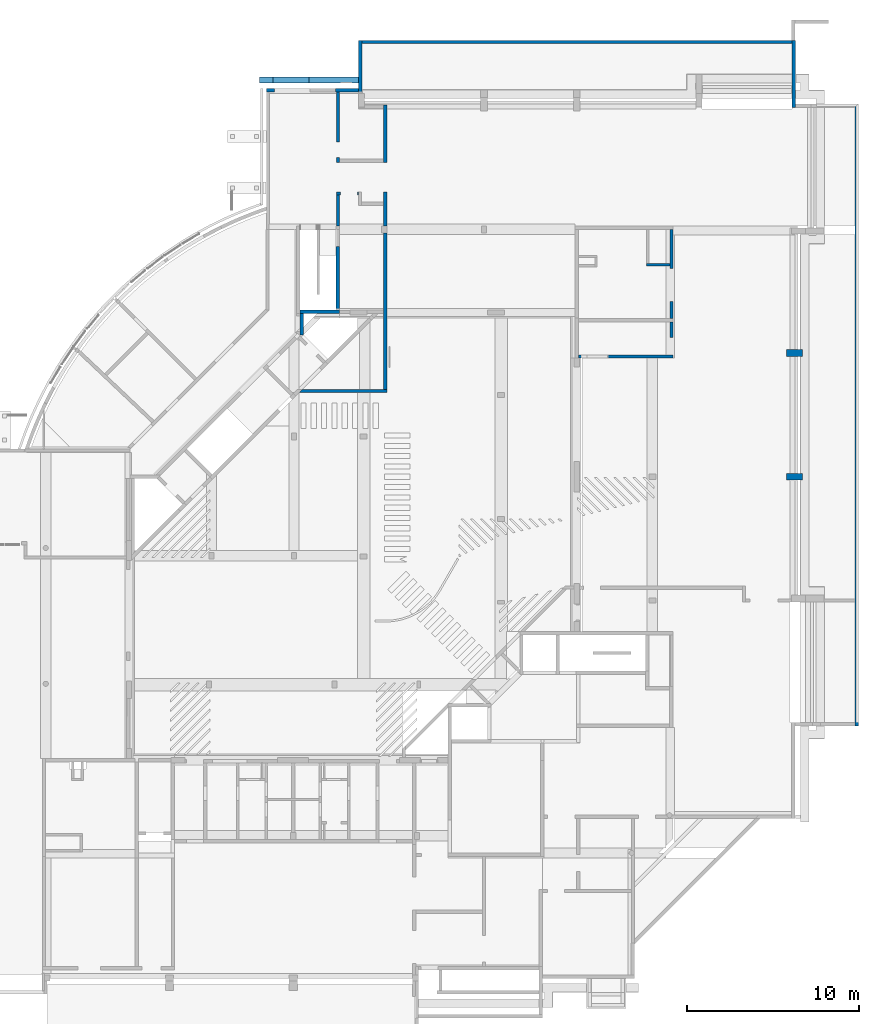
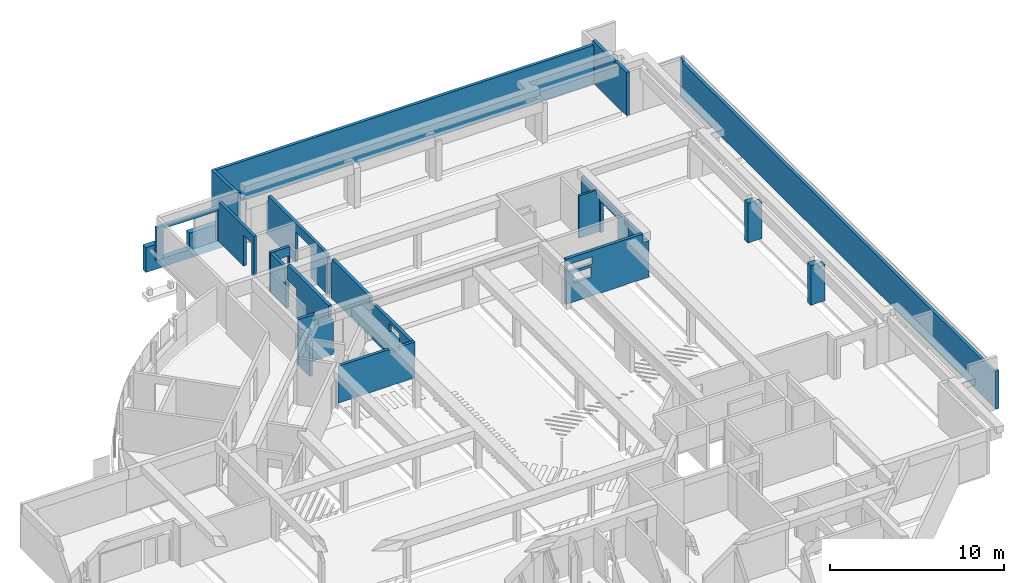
# One storey, part 21 of 22: 21 walls.
"""IFC4X3_ADD2 building model written with IfcOpenShell, lengths in millimetres."""

from ifc_helpers import new_model, si_unit, direction, frame, origin_with_axes, place, context, subcontext, project, spatial, polygons, element, save


model = new_model("IFC4X3_ADD2")

# Units and contexts
model_context = context("Model", 3, precision=1e-05, world=origin_with_axes(), true_north=direction((0.0, 1.0)))
body_context = subcontext(model_context, "Body", "Model", "MODEL_VIEW")
ifc_project = project(units=[si_unit("LENGTHUNIT", "METRE", prefix="MILLI"), si_unit("AREAUNIT", "SQUARE_METRE"), si_unit("VOLUMEUNIT", "CUBIC_METRE"), si_unit("PLANEANGLEUNIT", "RADIAN"), si_unit("TIMEUNIT", "SECOND"), si_unit("MASSUNIT", "GRAM")], contexts=[model_context])

# Site, building, storey
site_placement = place(None, origin_with_axes())
site = spatial("IfcSite", under=ifc_project, at=site_placement, Name="Site", CompositionType="ELEMENT")
building_placement = place(site_placement, origin_with_axes())
building = spatial("IfcBuilding", under=site, at=building_placement, Name="IFC Building Story")
storey_placement = place(building_placement, frame((0.0, 0.0, -3240.0), z_axis=(0.0, 0.0, 1.0), x_axis=(1.0, 0.0, 0.0)))
storey = spatial("IfcBuildingStorey", under=building, at=storey_placement, Name="K10", Elevation=-3240.0)

# Walls
wall_1_placement = place(storey_placement, frame((0.0, 0.0, 3240.0), z_axis=(0.0, 0.0, 1.0), x_axis=(1.0, 0.0, 0.0)))
element("IfcWall", 1, at=wall_1_placement, inside=storey, Name="Basic Wall:BB_XX_Wand uit beton, 200 mm", ObjectType="Basic Wall:BB_XX_Wand uit beton, 200 mm", PredefinedType="SOLIDWALL", context=body_context, shape_type="Tessellation", body=[
    polygons([(3600.04020634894, 50800.02750775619, -3240.0), (3600.04020634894, 50600.02750775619, -3240.0), (3600.040206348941, 14795.0, -3240.0), (3600.04020634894, 14595.0, -3240.0), (3600.04020634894, 14595.0, -550.0), (3600.040206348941, 14795.0, -550.0), (3600.040206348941, 14795.0, -747.87243127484), (3600.040206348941, 20904.9999999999, -747.87243127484), (3600.040206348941, 21804.9999999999, -747.87243127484), (3600.040206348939, 50600.02750775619, -747.87243127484), (3600.040206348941, 50600.02750775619, -550.0), (3600.04020634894, 50800.0275077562, -550.0), (3800.04020634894, 14595.0, -3240.0), (3800.04020634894, 50800.02750775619, -3240.0), (3800.04020634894, 50800.02750775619, -550.0), (3800.04020634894, 50600.02750775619, -550.0), (3800.04020634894, 50600.02750775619, -750.0114380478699), (3800.04020634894, 14795.0, -750.0114380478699), (3800.04020634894, 14795.0, -550.0), (3800.04020634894, 14595.0, -550.0), (3800.04020634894, 14595.0, -1000.0), (3700.040206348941, 14595.0, -550.0)], [[[7, 3, 4]], [[7, 4, 5]], [[5, 6, 7]], [[9, 10, 2]], [[9, 2, 3]], [[3, 8, 9]], [[3, 7, 8]], [[10, 11, 12]], [[12, 1, 2]], [[12, 2, 10]], [[18, 19, 20]], [[21, 13, 14]], [[21, 14, 17]], [[18, 20, 21]], [[21, 17, 18]], [[14, 15, 17]], [[15, 16, 17]], [[2, 1, 14]], [[14, 13, 3]], [[14, 3, 2]], [[13, 4, 3]], [[22, 20, 19]], [[22, 19, 6]], [[6, 5, 22]], [[1, 12, 15, 14]], [[22, 5, 21]], [[21, 20, 22]], [[5, 4, 13]], [[5, 13, 21]], [[8, 7, 18]], [[18, 9, 8]], [[9, 18, 17]], [[17, 10, 9]], [[18, 7, 6, 19]], [[10, 17, 16, 11]], [[15, 12, 11, 16]]]),
])
wall_2_placement = place(storey_placement, frame((0.0, 0.0, 3240.0), z_axis=(0.0, 0.0, 1.0), x_axis=(1.0, 0.0, 0.0)))
element("IfcWall", 2, at=wall_2_placement, inside=storey, Name="Basic Wall:BB_XX_Wand uit beton, 200 mm", ObjectType="Basic Wall:BB_XX_Wand uit beton, 200 mm", PredefinedType="SOLIDWALL", context=body_context, shape_type="Tessellation", body=[
    polygons([(-26600.0, 43500.0, -1120.0), (-26600.0, 42499.99999999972, -1120.0), (-26600.0, 42499.99999999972, -3240.0), (-26600.0, 38799.99593411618, -3240.0), (-26600.0, 38799.99593411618, -80.0), (-26600.0, 43500.0, -80.0), (-26400.0, 43500.0, -1120.0), (-26400.0, 43500.0, -80.0), (-26400.0, 38799.99593411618, -80.0), (-26400.0, 38799.99593411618, -200.0), (-26400.0, 38799.99593411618, -3240.0), (-26400.0, 42499.99999999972, -3240.0), (-26400.0, 42499.99999999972, -1120.0)], [[[2, 3, 4]], [[2, 4, 5]], [[5, 6, 2]], [[6, 1, 2]], [[13, 7, 8]], [[13, 8, 10]], [[10, 11, 12]], [[10, 12, 13]], [[8, 9, 10]], [[10, 9, 5]], [[5, 4, 11]], [[5, 11, 10]], [[4, 3, 12, 11]], [[6, 5, 9, 8]], [[1, 6, 8, 7]], [[2, 1, 7, 13]], [[3, 2, 13, 12]]]),
])
wall_3_placement = place(storey_placement, frame((0.0, 0.0, 3240.0), z_axis=(0.0, 0.0, 1.0), x_axis=(1.0, 0.0, 0.0)))
element("IfcWall", 3, at=wall_3_placement, inside=storey, Name="Basic Wall:BB_XX_Wand uit beton, 200 mm", ObjectType="Basic Wall:BB_XX_Wand uit beton, 200 mm", PredefinedType="SOLIDWALL", context=body_context, shape_type="Tessellation", body=[
    polygons([(-26400.0, 38799.9959341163, -3440.0), (-28700.0000000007, 38799.9959341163, -3440.0), (-28700.0000000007, 38799.9959341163, -200.0), (-27495.84100984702, 38799.9959341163, -200.0), (-27495.84100984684, 38799.99593411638, -950.0), (-26600.00000000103, 38799.9959341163, -950.0), (-26400.0000000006, 38799.9959341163, -950.0), (-26400.00000000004, 38799.9959341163, -3240.0), (-28700.0000000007, 38599.9959341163, -3440.0), (-26400.0, 38599.9959341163, -3440.0), (-26400.0000000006, 38599.9959341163, -950.0), (-27695.84100984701, 38599.9959341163, -950.0), (-27695.84100984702, 38599.9959341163, -200.0), (-28700.0000000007, 38599.9959341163, -200.0), (-28700.00000000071, 38599.9959341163, -920.0)], [[[8, 1, 6]], [[6, 7, 8]], [[1, 5, 6]], [[1, 2, 3]], [[1, 3, 5]], [[3, 4, 5]], [[12, 13, 14]], [[12, 14, 15]], [[12, 15, 9]], [[9, 10, 11]], [[9, 11, 12]], [[2, 1, 10, 9]], [[3, 14, 13, 4]], [[15, 14, 3]], [[3, 2, 9]], [[3, 9, 15]], [[6, 5, 12]], [[6, 12, 11]], [[11, 7, 6]], [[12, 5, 4, 13]], [[8, 7, 11]], [[8, 11, 10]], [[10, 1, 8]]]),
])
wall_4_placement = place(storey_placement, frame((0.0, 0.0, 3240.0), z_axis=(0.0, 0.0, 1.0), x_axis=(1.0, 0.0, 0.0)))
element("IfcWall", 4, at=wall_4_placement, inside=storey, Name="Basic Wall:BB_XX_Wand uit beton, 200 mm", ObjectType="Basic Wall:BB_XX_Wand uit beton, 200 mm", PredefinedType="SOLIDWALL", context=body_context, shape_type="Tessellation", body=[
    polygons([(-12500.0040658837, 36000.0, -3240.0), (-6999.999999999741, 36000.0, -3240.0), (-6999.999999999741, 36000.0, -680.0), (-7400.000000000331, 36000.00000000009, -680.0), (-7400.000000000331, 36000.0, -80.0), (-12500.0040658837, 36000.0, -80.0), (-12350.00000000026, 36000.0, -1010.0), (-12350.00000000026, 36000.0, -510.0), (-10750.00000000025, 36000.0, -509.99999999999), (-10750.00000000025, 36000.0, -1010.0), (-10800.0040658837, 36000.0, -1910.0), (-12000.0040658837, 36000.0, -1910.0), (-12000.0040658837, 36000.0, -1210.0), (-10800.0040658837, 36000.0, -1210.0), (-6999.999999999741, 36200.0, -3240.0), (-12500.0040658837, 36200.0, -3240.0), (-12500.0040658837, 36200.0, -80.0), (-7400.000000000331, 36200.0, -80.0), (-7400.000000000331, 36200.0, -680.0), (-6999.999999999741, 36200.0, -680.0), (-12350.00000000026, 36200.0, -510.0), (-12350.00000000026, 36200.0, -1010.0), (-10750.00000000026, 36200.0, -1010.0), (-10750.00000000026, 36200.0, -509.99999999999), (-12000.0040658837, 36200.0, -1910.0), (-10800.0040658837, 36200.0, -1910.0), (-10800.0040658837, 36200.0, -1210.0), (-12000.0040658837, 36200.0, -1210.0)], [[[7, 6, 1]], [[13, 14, 10]], [[13, 10, 7]], [[7, 12, 13]], [[12, 7, 1]], [[1, 11, 12]], [[10, 14, 4]], [[4, 9, 10]], [[4, 5, 6]], [[4, 6, 9]], [[6, 8, 9]], [[6, 7, 8]], [[11, 1, 2]], [[11, 2, 4]], [[4, 14, 11]], [[2, 3, 4]], [[24, 21, 17]], [[19, 20, 23]], [[24, 17, 18]], [[24, 18, 19]], [[19, 23, 24]], [[28, 25, 16]], [[28, 16, 22]], [[22, 23, 27]], [[22, 27, 28]], [[23, 26, 27]], [[26, 23, 20]], [[20, 15, 16]], [[20, 16, 26]], [[16, 25, 26]], [[16, 17, 22]], [[17, 21, 22]], [[19, 4, 3, 20]], [[4, 19, 18, 5]], [[2, 1, 16, 15]], [[2, 15, 20, 3]], [[17, 6, 5, 18]], [[1, 6, 17, 16]], [[8, 7, 22, 21]], [[9, 8, 21, 24]], [[10, 9, 24, 23]], [[7, 10, 23, 22]], [[12, 11, 26, 25]], [[13, 12, 25, 28]], [[14, 13, 28, 27]], [[11, 14, 27, 26]]]),
])
wall_5_placement = place(storey_placement, frame((0.0, 0.0, 3240.0), z_axis=(0.0, 0.0, 1.0), x_axis=(1.0, 0.0, 0.0)))
element("IfcWall", 5, at=wall_5_placement, inside=storey, Name="Basic Wall:BB_XX_Wand uit metselwerk, 190 mm", ObjectType="Basic Wall:BB_XX_Wand uit metselwerk, 190 mm", PredefinedType="SOLIDWALL", context=body_context, shape_type="Tessellation", body=[
    polygons([(-28510.0, 37359.9959341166, -3440.0), (-28510.0, 38599.9959341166, -3440.0), (-28510.0, 38599.9959341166, -919.3956675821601), (-28510.0, 37785.83694396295, -919.3956675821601), (-28510.0, 37785.83694396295, -950.0), (-28510.0, 37361.57287525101, -950.0), (-28510.0, 37361.57287525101, -919.3956675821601), (-28510.0, 37359.9959341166, -919.3956675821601), (-28700.0, 38599.9959341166, -3440.0), (-28700.0, 38467.28377279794, -3440.0), (-28700.0, 37567.28377279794, -3440.0), (-28700.0, 37359.9959341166, -3440.0), (-28700.0, 37359.9959341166, -950.0), (-28700.0, 37567.28377279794, -950.0), (-28700.0, 37595.83694396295, -950.0), (-28700.0, 37595.83694396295, -919.3956675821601), (-28700.0, 38599.9959341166, -919.3956675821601), (-28700.0, 38599.9959341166, -920.0), (-28511.57694113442, 37359.9959341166, -919.3956675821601), (-28511.57694113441, 37359.9959341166, -950.0)], [[[6, 7, 8]], [[6, 8, 1]], [[1, 5, 6]], [[1, 2, 3]], [[1, 3, 5]], [[3, 4, 5]], [[11, 12, 13]], [[11, 13, 14]], [[15, 16, 17]], [[15, 17, 10]], [[15, 10, 11]], [[11, 14, 15]], [[18, 9, 10]], [[10, 17, 18]], [[10, 9, 2]], [[2, 1, 11]], [[2, 11, 10]], [[1, 12, 11]], [[18, 17, 3]], [[3, 2, 9]], [[3, 9, 18]], [[8, 7, 19]], [[20, 13, 12]], [[20, 12, 1]], [[1, 8, 20]], [[8, 19, 20]], [[15, 5, 4, 16]], [[14, 13, 20]], [[14, 20, 6]], [[6, 5, 15]], [[6, 15, 14]], [[6, 20, 19, 7]], [[3, 17, 16, 4]]]),
])
wall_6_placement = place(storey_placement, frame((0.0, 0.0, 3240.0), z_axis=(0.0, 0.0, 1.0), x_axis=(1.0, 0.0, 0.0)))
element("IfcWall", 6, at=wall_6_placement, inside=storey, Name="Basic Wall:BB_XX_Wand uit beton, 200 mm", ObjectType="Basic Wall:BB_XX_Wand uit beton, 200 mm", PredefinedType="SOLIDWALL", context=body_context, shape_type="Tessellation", body=[
    polygons([(-65.0, 54499.9312295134, -3240.0), (-65.0, 54299.9312295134, -3240.0), (-65.0, 50600.02750775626, -3240.0), (-65.0, 50600.02750775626, -200.0), (-65.0, 51929.99999999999, -200.0), (-65.0, 51929.99999999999, -320.0), (-65.0, 54499.9312295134, -320.0), (-65.0, 54499.9312295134, -605.4227364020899), (135.0, 54499.9312295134, -3240.0), (135.0, 54499.9312295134, -320.0), (135.0, 51929.99999999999, -320.0), (135.0, 51929.99999999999, -200.0), (135.0, 50800.02750775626, -200.0), (135.0, 50600.02750775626, -200.0), (135.0, 50600.02750775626, -3240.0), (135.0, 50800.02750775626, -3240.0)], [[[6, 7, 2]], [[6, 2, 3]], [[3, 4, 6]], [[4, 5, 6]], [[8, 1, 2]], [[2, 7, 8]], [[13, 14, 11]], [[11, 12, 13]], [[11, 14, 16]], [[16, 9, 10]], [[16, 10, 11]], [[14, 15, 16]], [[4, 3, 15, 14]], [[8, 7, 10]], [[10, 9, 1]], [[10, 1, 8]], [[2, 1, 9]], [[16, 15, 3]], [[3, 2, 9]], [[3, 9, 16]], [[13, 12, 5]], [[13, 5, 4]], [[4, 14, 13]], [[6, 5, 12, 11]], [[7, 6, 11, 10]]]),
])
wall_7_placement = place(storey_placement, frame((0.0, 0.0, 3240.0), z_axis=(0.0, 0.0, 1.0), x_axis=(1.0, 0.0, 0.0)))
element("IfcWall", 7, at=wall_7_placement, inside=storey, Name="Basic Wall:BB_XX_Wand uit beton, 200 mm", ObjectType="Basic Wall:BB_XX_Wand uit beton, 200 mm", PredefinedType="SOLIDWALL", context=body_context, shape_type="Tessellation", body=[
    polygons([(-25100.0, 51505.0, -3240.0), (-25100.0, 54299.93122951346, -3240.0), (-25100.0, 54499.93122951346, -3240.0), (-25100.0, 54499.93122951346, -520.0356941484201), (-25100.0, 54299.93122951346, -516.2569465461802), (-25100.0, 51694.99999990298, -467.0400583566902), (-25100.0, 51694.99999990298, -350.0), (-25100.0, 51505.0, -350.0), (-25300.0, 51504.99999999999, -3240.0), (-25300.0, 51504.99999999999, -350.0), (-25300.0, 51694.99999990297, -350.0), (-25300.0, 51694.99999990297, -467.0400583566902), (-25300.0, 54499.93122951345, -520.0356941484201), (-25300.0, 54499.93122951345, -3240.0)], [[[2, 3, 4]], [[2, 4, 5]], [[6, 7, 8]], [[6, 8, 1]], [[1, 2, 5]], [[1, 5, 6]], [[12, 13, 14]], [[12, 14, 9]], [[9, 10, 12]], [[10, 11, 12]], [[2, 1, 9]], [[2, 9, 14]], [[14, 3, 2]], [[1, 8, 10, 9]], [[4, 3, 14, 13]], [[8, 7, 11, 10]], [[11, 7, 6, 12]], [[5, 4, 13]], [[13, 12, 6]], [[13, 6, 5]]]),
])
wall_8_placement = place(storey_placement, frame((0.0, 0.0, 3240.0), z_axis=(0.0, 0.0, 1.0), x_axis=(1.0, 0.0, 0.0)))
element("IfcWall", 8, at=wall_8_placement, inside=storey, Name="Basic Wall:BB_XX_Wand uit beton, 200 mm", ObjectType="Basic Wall:BB_XX_Wand uit beton, 200 mm", PredefinedType="SOLIDWALL", context=body_context, shape_type="Tessellation", body=[
    polygons([(-25100.0, 54299.93122951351, -3240.0), (-65.0, 54299.93122951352, -3240.0), (-65.0, 54299.93122951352, -605.4227364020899), (-100.0, 54299.93122951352, -605.4227364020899), (-100.0, 54299.93122951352, -516.2569465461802), (-25100.0, 54299.93122951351, -516.2569465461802), (-25100.0, 54499.9312295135, -3240.0), (-25100.0, 54499.9312295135, -520.0356941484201), (-100.0, 54499.9312295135, -520.0356941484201), (-100.0, 54499.9312295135, -605.4227364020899), (-65.0, 54499.9312295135, -605.4227364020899), (-65.0, 54499.9312295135, -3240.0)], [[[4, 5, 6]], [[6, 1, 2]], [[6, 2, 4]], [[2, 3, 4]], [[10, 11, 12]], [[10, 12, 7]], [[10, 7, 8]], [[8, 9, 10]], [[2, 1, 7, 12]], [[3, 2, 12, 11]], [[1, 6, 8, 7]], [[4, 3, 11, 10]], [[4, 10, 9, 5]], [[6, 5, 9, 8]]]),
])
wall_9_placement = place(storey_placement, frame((0.0, 0.0, 3240.0), z_axis=(0.0, 0.0, 1.0), x_axis=(1.0, 0.0, 0.0)))
element("IfcWall", 9, at=wall_9_placement, inside=storey, Name="Basic Wall:BB_XX_Wand uit beton, 400 mm", ObjectType="Basic Wall:BB_XX_Wand uit beton, 400 mm", PredefinedType="SOLIDWALL", context=body_context, shape_type="Tessellation", body=[
    polygons([(-382.49999999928, 28900.0, -3240.0), (542.500000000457, 28900.0, -3240.0), (542.500000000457, 28900.0, -714.50349560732), (94.99999999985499, 28900.0, -710.3859075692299), (94.99999999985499, 28900.0, -460.0), (-382.49999999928, 28900.0, -460.0), (-382.49999999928, 29300.00000000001, -3240.0), (-382.49999999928, 29300.00000000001, -460.0), (94.99999999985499, 29300.0, -460.0), (94.99999999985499, 29300.0, -710.3859075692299), (542.500000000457, 29300.0, -714.50349560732), (542.500000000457, 29300.0, -3240.0)], [[[4, 5, 6]], [[4, 6, 1]], [[4, 1, 2]], [[2, 3, 4]], [[10, 11, 12]], [[12, 7, 8]], [[12, 8, 10]], [[8, 9, 10]], [[2, 1, 7, 12]], [[3, 2, 12, 11]], [[6, 5, 9, 8]], [[1, 6, 8, 7]], [[4, 3, 11, 10]], [[5, 4, 10, 9]]]),
])
wall_10_placement = place(storey_placement, frame((0.0, 0.0, 3240.0), z_axis=(0.0, 0.0, 1.0), x_axis=(1.0, 0.0, 0.0)))
element("IfcWall", 10, at=wall_10_placement, inside=storey, Name="Basic Wall:BB_XX_Wand uit beton, 400 mm", ObjectType="Basic Wall:BB_XX_Wand uit beton, 400 mm", PredefinedType="SOLIDWALL", context=body_context, shape_type="Tessellation", body=[
    polygons([(-382.499999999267, 36100.0, -3240.0), (542.50000000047, 36100.00000000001, -3240.0), (542.50000000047, 36100.00000000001, -714.50349560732), (94.99999999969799, 36100.0, -710.3859075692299), (94.99999999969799, 36100.0, -460.0), (-382.499999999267, 36100.0, -460.0), (-382.499999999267, 36500.0, -3240.0), (-382.499999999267, 36500.0, -460.0), (94.99999999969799, 36500.0, -460.0), (94.99999999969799, 36500.0, -710.3859075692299), (542.50000000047, 36500.0, -714.50349560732), (542.50000000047, 36500.0, -3240.0)], [[[4, 5, 6]], [[4, 6, 1]], [[4, 1, 2]], [[2, 3, 4]], [[10, 11, 12]], [[12, 7, 8]], [[12, 8, 10]], [[8, 9, 10]], [[2, 1, 7, 12]], [[3, 2, 12, 11]], [[6, 5, 9, 8]], [[1, 6, 8, 7]], [[4, 3, 11, 10]], [[5, 4, 10, 9]]]),
])
wall_11_placement = place(storey_placement, frame((0.0, 0.0, 3240.0), z_axis=(0.0, 0.0, 1.0), x_axis=(1.0, 0.0, 0.0)))
element("IfcWall", 11, at=wall_11_placement, inside=storey, Name="Basic Wall:BB_03.09.24#05_Wand uit metselwerk_EI60, 190 mm", ObjectType="Basic Wall:BB_03.09.24#05_Wand uit metselwerk_EI60, 190 mm", PredefinedType="SOLIDWALL", context=body_context, shape_type="Tessellation", body=[
    polygons([(-23840.0, 43700.0, -3240.0), (-23840.0, 43700.0, -700.0), (-23840.0, 43800.00000000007, -700.0), (-23840.0, 43800.00000000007, -460.0), (-23840.0, 44890.00000000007, -460.0), (-23840.0, 45080.00000000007, -460.0), (-23840.0, 47400.00000000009, -460.0), (-23840.0, 47590.00000000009, -460.0), (-23840.0, 50505.00000000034, -460.0), (-23840.0, 50505.00000000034, -920.0), (-23840.0, 50530.0, -920.0), (-23840.0, 50720.0, -920.0), (-23840.0, 50720.0, -3240.0), (-23840.0, 50530.0, -3240.0), (-23840.0, 47590.00000000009, -3240.0), (-23840.0, 47400.00000000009, -3240.0), (-23840.0, 47400.00000000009, -1080.0), (-23840.00000000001, 45680.00000000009, -1080.0), (-23840.0, 45680.00000000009, -3240.0), (-23840.0, 45080.00000000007, -3240.0), (-23840.0, 44890.00000000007, -3240.0), (-23650.0, 43700.0, -700.0), (-23650.0, 43700.0, -3240.0), (-23650.0, 45680.00000000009, -3240.0), (-23650.00000000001, 45680.00000000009, -1080.0), (-23650.0, 47400.00000000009, -1080.0), (-23650.0, 47400.00000000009, -3240.0), (-23650.0, 50720.0, -3240.0), (-23650.0, 50720.0, -920.0), (-23650.0, 50505.00000000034, -920.0), (-23650.0, 50505.00000000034, -460.0), (-23650.0, 43800.00000000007, -460.0), (-23650.0, 43800.00000000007, -700.0)], [[[11, 12, 13]], [[11, 13, 14]], [[14, 10, 11]], [[10, 14, 15]], [[10, 15, 8]], [[8, 9, 10]], [[17, 7, 8]], [[8, 15, 16]], [[8, 16, 17]], [[17, 18, 6]], [[17, 6, 7]], [[18, 5, 6]], [[18, 3, 4]], [[18, 4, 5]], [[21, 1, 3]], [[21, 3, 18]], [[18, 20, 21]], [[18, 19, 20]], [[1, 2, 3]], [[30, 31, 26]], [[26, 27, 28]], [[26, 28, 30]], [[28, 29, 30]], [[31, 32, 25]], [[31, 25, 26]], [[33, 22, 23]], [[33, 23, 24]], [[33, 24, 25]], [[25, 32, 33]], [[13, 12, 29, 28]], [[14, 13, 28]], [[28, 27, 15]], [[28, 15, 14]], [[27, 16, 15]], [[2, 1, 23, 22]], [[5, 4, 32]], [[32, 6, 5]], [[32, 7, 6]], [[32, 8, 7]], [[32, 31, 8]], [[31, 9, 8]], [[3, 2, 22, 33]], [[4, 3, 33, 32]], [[10, 9, 31, 30]], [[11, 10, 30]], [[30, 29, 12]], [[30, 12, 11]], [[17, 26, 25, 18]], [[18, 25, 24, 19]], [[26, 17, 16, 27]], [[20, 19, 24]], [[24, 21, 20]], [[24, 23, 1]], [[24, 1, 21]]]),
])
wall_12_placement = place(storey_placement, frame((0.0, 0.0, 3240.0), z_axis=(0.0, 0.0, 1.0), x_axis=(1.0, 0.0, 0.0)))
element("IfcWall", 12, at=wall_12_placement, inside=storey, Name="Basic Wall:BB_03.09.24#05_Wand uit metselwerk_EI60, 190 mm", ObjectType="Basic Wall:BB_03.09.24#05_Wand uit metselwerk_EI60, 190 mm", PredefinedType="SOLIDWALL", context=body_context, shape_type="Tessellation", body=[
    polygons([(-23840.0, 43300.0, -3240.0), (-23840.0, 38799.9959341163, -3240.0), (-23840.0, 38609.9959341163, -3240.0), (-23840.0, 34179.9959341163, -3240.0), (-23840.0, 34179.9959341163, -730.0), (-23840.0, 38500.0, -730.0), (-23840.0, 38500.0, -950.0), (-23840.0, 38609.9959341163, -950.0), (-23840.0, 38799.9959341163, -950.0), (-23840.0, 38900.00000000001, -950.0), (-23840.0, 38900.00000000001, -460.0), (-23840.0, 43200.00000000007, -460.0), (-23840.0, 43200.00000000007, -700.0), (-23840.0, 43300.0, -700.0), (-23840.00000000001, 36669.94184145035, -990.0), (-23840.00000000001, 35469.94184145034, -990.0), (-23840.00000000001, 35469.94184145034, -1590.0), (-23840.00000000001, 36669.94184145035, -1590.0), (-23650.0, 34179.9959341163, -3240.0), (-23650.0, 43300.0, -3240.0), (-23650.0, 43300.0, -700.0), (-23650.0, 43200.00000000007, -700.0), (-23650.0, 43200.00000000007, -460.0), (-23650.0, 38900.00000000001, -460.0), (-23650.0, 38900.00000000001, -950.0), (-23650.0, 38500.0, -950.0), (-23650.0, 38500.0, -730.0), (-23650.0, 34179.9959341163, -730.0), (-23650.0, 35469.94184145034, -990.0), (-23650.0, 36669.94184145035, -990.0), (-23650.0, 36669.94184145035, -1590.0), (-23650.0, 35469.94184145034, -1590.0)], [[[13, 14, 10]], [[10, 11, 12]], [[10, 12, 13]], [[14, 1, 2]], [[14, 2, 10]], [[2, 9, 10]], [[2, 3, 8]], [[2, 8, 9]], [[3, 7, 8]], [[18, 15, 6]], [[18, 6, 7]], [[18, 7, 3]], [[3, 4, 17]], [[3, 17, 18]], [[4, 5, 17]], [[5, 16, 17]], [[5, 6, 15]], [[5, 15, 16]], [[22, 23, 24]], [[32, 29, 28]], [[32, 28, 19]], [[19, 31, 32]], [[19, 26, 31]], [[26, 27, 30]], [[26, 30, 31]], [[27, 28, 29]], [[27, 29, 30]], [[19, 20, 25]], [[19, 25, 26]], [[20, 22, 24]], [[20, 24, 25]], [[20, 21, 22]], [[5, 4, 19, 28]], [[2, 1, 20]], [[20, 3, 2]], [[20, 19, 3]], [[19, 4, 3]], [[6, 5, 28, 27]], [[1, 14, 21, 20]], [[7, 6, 27, 26]], [[8, 7, 26]], [[26, 25, 9]], [[26, 9, 8]], [[25, 10, 9]], [[11, 10, 25, 24]], [[12, 11, 24, 23]], [[13, 12, 23, 22]], [[14, 13, 22, 21]], [[15, 30, 29, 16]], [[16, 29, 32, 17]], [[17, 32, 31, 18]], [[30, 15, 18, 31]]]),
])
wall_13_placement = place(storey_placement, frame((0.0, 0.0, 3240.0), z_axis=(0.0, 0.0, 1.0), x_axis=(1.0, 0.0, 0.0)))
element("IfcWall", 13, at=wall_13_placement, inside=storey, Name="Basic Wall:BB_03.09.24#05_Wand uit metselwerk_EI60, 190 mm", ObjectType="Basic Wall:BB_03.09.24#05_Wand uit metselwerk_EI60, 190 mm", PredefinedType="SOLIDWALL", context=body_context, shape_type="Tessellation", body=[
    polygons([(-23650.0, 34179.9959341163, -3240.0), (-23840.0, 34179.9959341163, -3240.0), (-28580.30710391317, 34179.9959341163, -3240.0), (-28580.30710391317, 34179.9959341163, -1049.99999999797), (-28580.30710391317, 34179.9959341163, -660.0), (-25360.00000000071, 34179.9959341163, -660.0), (-25360.00000000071, 34179.9959341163, -900.0), (-24640.00000000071, 34179.9959341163, -900.0), (-24640.00000000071, 34179.9959341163, -730.0), (-23840.0, 34179.9959341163, -730.0), (-23650.0, 34179.9959341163, -730.0), (-28770.30710391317, 33989.9959341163, -3240.0), (-23650.0, 33989.9959341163, -3240.0), (-23650.0, 33989.9959341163, -730.0), (-24640.00000000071, 33989.9959341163, -730.0), (-24640.00000000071, 33989.9959341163, -900.0), (-25360.00000000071, 33989.9959341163, -900.0), (-25360.00000000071, 33989.9959341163, -660.0), (-28770.30710391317, 33989.9959341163, -660.0), (-28743.50042412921, 34016.80261390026, -660.0)], [[[4, 5, 6]], [[4, 6, 7]], [[8, 9, 10]], [[8, 10, 2]], [[2, 7, 8]], [[2, 3, 4]], [[2, 4, 7]], [[10, 11, 1]], [[10, 1, 2]], [[17, 18, 19]], [[17, 19, 12]], [[17, 12, 13]], [[13, 16, 17]], [[13, 14, 16]], [[14, 15, 16]], [[4, 3, 12]], [[4, 12, 20]], [[20, 5, 4]], [[12, 19, 20]], [[1, 11, 14, 13]], [[2, 1, 13]], [[13, 12, 3]], [[13, 3, 2]], [[20, 19, 18]], [[18, 6, 5]], [[18, 5, 20]], [[7, 6, 18, 17]], [[8, 7, 17, 16]], [[9, 8, 16, 15]], [[10, 9, 15]], [[10, 15, 14]], [[14, 11, 10]]]),
])
wall_14_placement = place(storey_placement, frame((0.0, 0.0, 3240.0), z_axis=(0.0, 0.0, 1.0), x_axis=(1.0, 0.0, 0.0)))
element("IfcWall", 14, at=wall_14_placement, inside=storey, Name="Basic Wall:BB_03.09.24#05_Wand uit metselwerk_EI60, 190 mm", ObjectType="Basic Wall:BB_03.09.24#05_Wand uit metselwerk_EI60, 190 mm", PredefinedType="SOLIDWALL", context=body_context, shape_type="Tessellation", body=[
    polygons([(-26590.0, 45490.0, -3240.0), (-26590.0, 43699.99999999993, -3240.0), (-26590.0, 43699.99999999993, -1180.0), (-26590.0, 43799.99999999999, -1180.0), (-26590.0, 43799.99999999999, -460.0), (-26590.0, 45490.0, -460.0), (-26400.0, 45490.0, -3240.0), (-26400.0, 45490.0, -460.0), (-26400.0, 43799.99999999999, -460.0), (-26400.0, 43799.99999999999, -1180.0), (-26400.0, 43699.99999999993, -1180.0), (-26400.0, 43699.99999999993, -3240.0)], [[[4, 5, 6]], [[6, 1, 2]], [[6, 2, 4]], [[2, 3, 4]], [[10, 11, 12]], [[10, 12, 7]], [[10, 7, 8]], [[8, 9, 10]], [[1, 6, 8, 7]], [[2, 1, 7, 12]], [[3, 2, 12, 11]], [[6, 5, 9, 8]], [[4, 3, 11, 10]], [[5, 4, 10, 9]]]),
])
wall_15_placement = place(storey_placement, frame((0.0, 0.0, 3240.0), z_axis=(0.0, 0.0, 1.0), x_axis=(1.0, 0.0, 0.0)))
element("IfcWall", 15, at=wall_15_placement, inside=storey, Name="Basic Wall:BB_03.09.24#05_Wand uit metselwerk_EI60, 190 mm", ObjectType="Basic Wall:BB_03.09.24#05_Wand uit metselwerk_EI60, 190 mm", PredefinedType="SOLIDWALL", context=body_context, shape_type="Tessellation", body=[
    polygons([(-25310.0, 45489.99999999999, -460.0), (-26400.0, 45489.99999999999, -460.0), (-26590.0, 45489.99999999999, -460.0), (-26590.0, 45489.99999999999, -3240.0), (-26400.0, 45489.99999999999, -3240.0), (-26350.00000000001, 45489.99999999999, -3240.0), (-26350.00000000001, 45489.99999999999, -1080.0), (-25360.0, 45489.99999999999, -1080.0), (-25360.0, 45489.99999999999, -3240.0), (-25310.0, 45489.99999999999, -3240.0), (-26590.0, 45679.99999999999, -460.0), (-25310.0, 45679.99999999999, -460.0), (-25310.0, 45679.99999999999, -3240.0), (-25360.0, 45679.99999999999, -3240.0), (-25360.0, 45679.99999999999, -1080.0), (-26350.00000000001, 45679.99999999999, -1080.0), (-26350.00000000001, 45679.99999999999, -3240.0), (-26590.0, 45679.99999999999, -3240.0)], [[[2, 3, 4]], [[2, 4, 5]], [[8, 9, 10]], [[10, 1, 8]], [[1, 2, 7]], [[1, 7, 8]], [[7, 2, 5]], [[5, 6, 7]], [[16, 17, 18]], [[16, 18, 11]], [[11, 12, 15]], [[11, 15, 16]], [[15, 12, 13]], [[13, 14, 15]], [[5, 4, 18]], [[5, 18, 17]], [[17, 6, 5]], [[2, 1, 12]], [[2, 12, 11]], [[11, 3, 2]], [[1, 10, 13, 12]], [[4, 3, 11, 18]], [[15, 8, 7, 16]], [[16, 7, 6, 17]], [[8, 15, 14, 9]], [[13, 10, 9, 14]]]),
])
wall_16_placement = place(storey_placement, frame((0.0, 0.0, 3240.0), z_axis=(0.0, 0.0, 1.0), x_axis=(1.0, 0.0, 0.0)))
element("IfcWall", 16, at=wall_16_placement, inside=storey, Name="Basic Wall:BB_03.09.24#05_Wand uit metselwerk_EI60, 190 mm", ObjectType="Basic Wall:BB_03.09.24#05_Wand uit metselwerk_EI60, 190 mm", PredefinedType="SOLIDWALL", context=body_context, shape_type="Tessellation", body=[
    polygons([(-26589.99999999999, 47400.0000000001, -460.0), (-26590.0, 51505.0, -460.0), (-26590.0, 51505.0, -3240.0), (-26589.99999999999, 48580.0000000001, -3240.0), (-26589.99999999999, 48580.0000000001, -1080.0), (-26589.99999999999, 47690.00000000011, -1080.0), (-26589.99999999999, 47690.00000000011, -3240.0), (-26589.99999999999, 47400.0000000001, -3240.0), (-26400.0, 51505.0, -460.0), (-26400.0, 47590.0000000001, -460.0), (-26399.99999999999, 47400.0000000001, -460.0), (-26399.99999999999, 47400.0000000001, -3240.0), (-26400.0, 47590.0000000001, -3240.0), (-26400.0, 47690.00000000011, -3240.0), (-26400.0, 47690.00000000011, -1080.0), (-26400.0, 48580.0000000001, -1080.0), (-26400.0, 48580.0000000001, -3240.0), (-26400.0, 51505.0, -3240.0)], [[[6, 7, 8]], [[6, 8, 1]], [[1, 5, 6]], [[5, 1, 2]], [[2, 3, 4]], [[2, 4, 5]], [[10, 11, 12]], [[10, 12, 13]], [[16, 17, 18]], [[16, 18, 9]], [[9, 10, 16]], [[10, 15, 16]], [[10, 13, 14]], [[10, 14, 15]], [[3, 18, 17, 4]], [[10, 9, 2]], [[10, 2, 1]], [[1, 11, 10]], [[3, 2, 9, 18]], [[1, 8, 12, 11]], [[5, 16, 15, 6]], [[6, 15, 14, 7]], [[16, 5, 4, 17]], [[13, 12, 8]], [[13, 8, 7]], [[7, 14, 13]]]),
])
wall_17_placement = place(storey_placement, frame((0.0, 0.0, 3240.0), z_axis=(0.0, 0.0, 1.0), x_axis=(1.0, 0.0, 0.0)))
element("IfcWall", 17, at=wall_17_placement, inside=storey, Name="Basic Wall:BB_03.09.24#05_Wand uit metselwerk_EI60, 190 mm", ObjectType="Basic Wall:BB_03.09.24#05_Wand uit metselwerk_EI60, 190 mm", PredefinedType="SOLIDWALL", context=body_context, shape_type="Tessellation", body=[
    polygons([(-7185.0, 38300.00000000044, -3240.0), (-7185.0, 38300.00000000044, -680.0), (-7185.0, 41359.99999999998, -680.0), (-7185.0, 41499.99999999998, -680.0), (-7185.0, 43500.0, -680.0), (-7185.0, 43500.0, -3240.0), (-7185.0, 41499.99999999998, -3240.0), (-7185.0, 41359.99999999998, -3240.0), (-7185.0, 41220.00000000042, -3240.0), (-7185.0, 41220.00000000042, -1080.0), (-7184.999999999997, 39300.00000000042, -1080.0), (-7185.0, 39300.00000000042, -3240.0), (-6995.0, 38300.00000000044, -680.0), (-6995.0, 38300.00000000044, -3240.0), (-6995.0, 39300.00000000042, -3240.0), (-6994.999999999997, 39300.00000000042, -1080.0), (-6995.0, 41220.00000000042, -1080.0), (-6995.0, 41220.00000000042, -3240.0), (-6995.0, 43500.0, -3240.0), (-6995.0, 43500.0, -680.0)], [[[4, 5, 6]], [[4, 6, 7]], [[7, 8, 3]], [[7, 3, 4]], [[11, 12, 1]], [[11, 1, 2]], [[2, 3, 10]], [[2, 10, 11]], [[3, 8, 9]], [[3, 9, 10]], [[17, 18, 19]], [[17, 19, 20]], [[20, 13, 16]], [[20, 16, 17]], [[13, 14, 15]], [[13, 15, 16]], [[7, 6, 19]], [[7, 19, 18]], [[18, 8, 7]], [[18, 9, 8]], [[2, 1, 14, 13]], [[3, 2, 13]], [[13, 4, 3]], [[13, 20, 4]], [[20, 5, 4]], [[6, 5, 20, 19]], [[10, 17, 16, 11]], [[11, 16, 15, 12]], [[17, 10, 9, 18]], [[14, 1, 12, 15]]]),
])
wall_18_placement = place(storey_placement, frame((0.0, 0.0, 3240.0), z_axis=(0.0, 0.0, 1.0), x_axis=(1.0, 0.0, 0.0)))
element("IfcWall", 18, at=wall_18_placement, inside=storey, Name="Basic Wall:BB_03.09.24#05_Wand uit metselwerk_EI60, 190 mm", ObjectType="Basic Wall:BB_03.09.24#05_Wand uit metselwerk_EI60, 190 mm", PredefinedType="SOLIDWALL", context=body_context, shape_type="Tessellation", body=[
    polygons([(-7185.0, 36199.99999999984, -680.0), (-7185.0, 38100.0, -680.0), (-7185.0, 38100.0, -3240.0), (-7185.0, 37189.99999999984, -3240.0), (-7185.000000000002, 37189.99999999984, -1080.0), (-7185.0, 36199.99999999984, -1080.0), (-6995.0, 38100.0, -680.0), (-6995.0, 36199.99999999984, -680.0), (-6995.0, 36199.99999999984, -1080.0), (-6995.000000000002, 37189.99999999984, -1080.0), (-6995.0, 37189.99999999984, -3240.0), (-6995.0, 38100.0, -3240.0)], [[[5, 6, 1]], [[5, 1, 2]], [[2, 3, 4]], [[2, 4, 5]], [[10, 11, 12]], [[10, 12, 7]], [[7, 8, 9]], [[7, 9, 10]], [[3, 12, 11, 4]], [[8, 1, 6, 9]], [[2, 1, 8, 7]], [[3, 2, 7, 12]], [[5, 10, 9, 6]], [[10, 5, 4, 11]]]),
])
wall_19_placement = place(storey_placement, frame((0.0, 0.0, 3240.0), z_axis=(0.0, 0.0, 1.0), x_axis=(1.0, 0.0, 0.0)))
element("IfcWall", 19, at=wall_19_placement, inside=storey, Name="Basic Wall:BB_XX_Wand uit beton, 190 mm", ObjectType="Basic Wall:BB_XX_Wand uit beton, 190 mm", PredefinedType="SOLIDWALL", context=body_context, shape_type="Tessellation", body=[
    polygons([(-30660.0, 51504.99999999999, -3240.0), (-30199.9999999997, 51504.99999999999, -3240.0), (-30199.9999999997, 51504.99999999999, -1150.99999999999), (-26629.9999999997, 51504.99999999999, -1150.99999999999), (-26629.9999999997, 51504.99999999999, -3240.0), (-25299.9999999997, 51504.99999999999, -3240.0), (-25299.9999999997, 51504.99999999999, -920.0), (-30660.0, 51504.99999999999, -920.0), (-30660.0, 51694.99999999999, -3240.0), (-30660.0, 51694.99999999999, -920.0), (-25299.9999999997, 51694.99999999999, -920.0), (-25299.9999999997, 51694.99999999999, -3240.0), (-26629.9999999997, 51694.99999999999, -3240.0), (-26629.9999999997, 51694.99999999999, -1150.99999999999), (-30199.9999999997, 51694.99999999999, -1150.99999999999), (-30199.9999999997, 51694.99999999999, -3240.0)], [[[4, 5, 6]], [[4, 6, 7]], [[7, 8, 3]], [[7, 3, 4]], [[8, 1, 2]], [[8, 2, 3]], [[15, 16, 9]], [[15, 9, 10]], [[10, 11, 14]], [[10, 14, 15]], [[11, 12, 13]], [[11, 13, 14]], [[2, 1, 9, 16]], [[8, 7, 11, 10]], [[3, 2, 16, 15]], [[4, 3, 15, 14]], [[5, 4, 14, 13]], [[6, 5, 13, 12]], [[7, 6, 12, 11]], [[1, 8, 10, 9]]]),
])
wall_20_placement = place(storey_placement, frame((0.0, 0.0, 3240.0), z_axis=(0.0, 0.0, 1.0), x_axis=(1.0, 0.0, 0.0)))
element("IfcWall", 20, at=wall_20_placement, inside=storey, Name="Basic Wall:BB_03.09.24#02_Wand uit metselwerk_EI60_43dB, 140 mm", ObjectType="Basic Wall:BB_03.09.24#02_Wand uit metselwerk_EI60_43dB, 140 mm", PredefinedType="SOLIDWALL", context=body_context, shape_type="Tessellation", body=[
    polygons([(-7185.0, 41500.0, -3240.0), (-8400.00000000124, 41500.0, -3240.0), (-8540.00000000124, 41500.0, -3240.0), (-8540.00000000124, 41500.0, -280.0), (-8400.00000000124, 41500.0, -280.0), (-7400.000000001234, 41500.0, -280.0), (-7400.000000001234, 41500.0, -680.0), (-7185.0, 41500.0, -680.0), (-7185.0, 41360.0, -3240.0), (-7185.0, 41360.0, -680.0), (-7400.000000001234, 41360.0, -680.0), (-7400.000000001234, 41360.0, -280.0), (-8540.00000000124, 41360.0, -280.0), (-8540.00000000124, 41360.0, -3240.0)], [[[2, 3, 4]], [[2, 4, 5]], [[7, 8, 1]], [[1, 2, 5]], [[1, 5, 7]], [[5, 6, 7]], [[11, 12, 13]], [[11, 13, 14]], [[11, 14, 9]], [[9, 10, 11]], [[4, 3, 14, 13]], [[1, 8, 10, 9]], [[2, 1, 9]], [[2, 9, 14]], [[14, 3, 2]], [[5, 4, 13]], [[13, 12, 6]], [[13, 6, 5]], [[7, 6, 12, 11]], [[8, 7, 11, 10]]]),
])
wall_21_placement = place(storey_placement, frame((0.0, 0.0, 3240.0), z_axis=(0.0, 0.0, 1.0), x_axis=(1.0, 0.0, 0.0)))
element("IfcWall", 21, at=wall_21_placement, inside=storey, Name="Basic Wall:BB_XX_Wand uit beton, 350 mm", ObjectType="Basic Wall:BB_XX_Wand uit beton, 350 mm", PredefinedType="SOLIDWALL", context=body_context, shape_type="Tessellation", body=[
    polygons([(-31057.5, 52020.00000000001, -4219.987270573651), (-30899.99999999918, 52020.00000000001, -4219.987270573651), (-25310.0, 52020.00000000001, -4219.987270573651), (-25310.0, 52020.00000000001, -2470.0), (-28169.99999999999, 52020.00000000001, -2470.0), (-28169.99999999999, 52020.00000000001, -3619.999999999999), (-30287.5, 52020.00000000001, -3619.999999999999), (-30287.5, 52020.00000000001, -2470.0), (-31057.5, 52020.00000000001, -2470.0), (-31057.5, 52020.00000000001, -3097.737484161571), (-31057.5, 52370.00000000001, -4219.987270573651), (-31057.5, 52370.00000000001, -3150.237484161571), (-31057.5, 52370.00000000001, -2470.0), (-30287.5, 52370.00000000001, -2470.0), (-30287.5, 52370.00000000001, -3259.999999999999), (-30287.5, 52370.00000000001, -3619.999999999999), (-28169.99999999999, 52370.00000000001, -3619.999999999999), (-28170.0, 52370.00000000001, -3259.999999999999), (-28169.99999999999, 52370.00000000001, -2470.0), (-25310.0, 52370.00000000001, -2470.0), (-25310.0, 52370.00000000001, -3259.999999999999), (-25310.0, 52370.00000000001, -3819.999999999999), (-25310.0, 52370.00000000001, -4219.987270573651), (-30899.99999999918, 52370.00000000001, -4219.987270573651), (-28170.0, 52140.00000000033, -3619.999999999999), (-30287.5, 52140.00000000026, -3619.999999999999)], [[[7, 8, 9]], [[7, 9, 2]], [[2, 6, 7]], [[6, 2, 3]], [[3, 4, 5]], [[3, 5, 6]], [[10, 1, 2]], [[2, 9, 10]], [[12, 13, 14]], [[12, 14, 15]], [[18, 19, 20]], [[18, 20, 21]], [[21, 22, 17]], [[21, 17, 18]], [[24, 11, 16]], [[17, 22, 23]], [[17, 23, 24]], [[24, 16, 17]], [[11, 12, 16]], [[12, 15, 16]], [[2, 1, 11]], [[2, 11, 24]], [[24, 23, 3]], [[24, 3, 2]], [[21, 20, 4]], [[4, 3, 22]], [[4, 22, 21]], [[3, 23, 22]], [[5, 4, 20, 19]], [[10, 9, 13]], [[10, 13, 12]], [[12, 11, 1]], [[12, 1, 10]], [[25, 6, 18]], [[18, 17, 25]], [[6, 5, 19]], [[6, 19, 18]], [[25, 17, 16]], [[25, 16, 26]], [[26, 7, 6]], [[26, 6, 25]], [[15, 14, 8]], [[15, 8, 26]], [[26, 16, 15]], [[8, 7, 26]], [[9, 8, 14, 13]]]),
])

save(model, "model.ifc")
